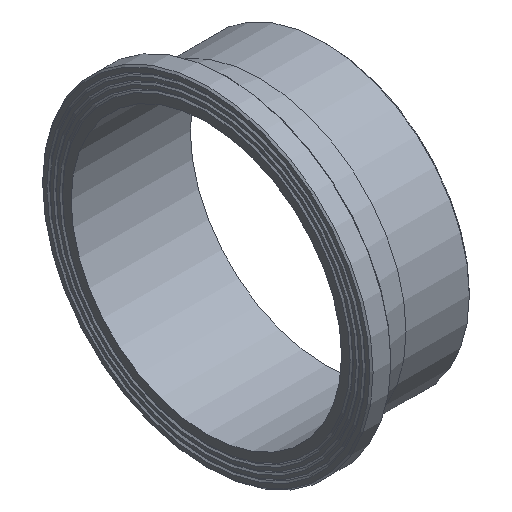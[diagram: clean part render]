
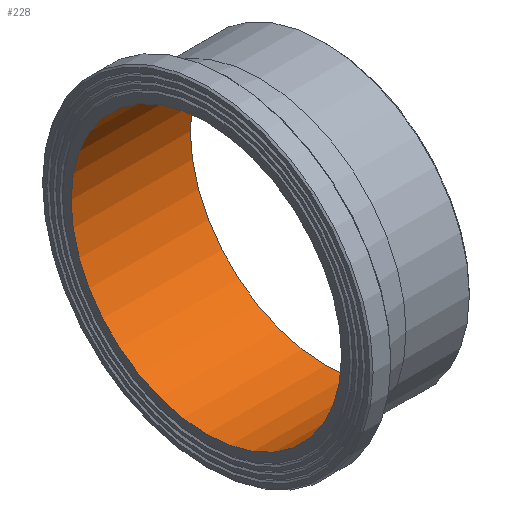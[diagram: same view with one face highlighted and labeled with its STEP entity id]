
A CAD part, isometric view. The second image highlights one B-rep face of the part: STEP entity #228.
In plain terms, the highlighted cylindrical face has radius 129.3 mm (diameter 258.6 mm), a full revolution.
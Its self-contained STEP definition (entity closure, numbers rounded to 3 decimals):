
#33=CYLINDRICAL_SURFACE('',#274,129.3);
#50=ORIENTED_EDGE('',*,*,#79,.F.);
#51=ORIENTED_EDGE('',*,*,#76,.T.);
#76=EDGE_CURVE('',#96,#96,#116,.T.);
#79=EDGE_CURVE('',#99,#99,#119,.T.);
#96=VERTEX_POINT('',#383);
#99=VERTEX_POINT('',#390);
#116=CIRCLE('',#257,129.3);
#119=CIRCLE('',#261,129.3);
#150=EDGE_LOOP('',(#50));
#151=EDGE_LOOP('',(#51));
#190=FACE_BOUND('',#150,.T.);
#191=FACE_BOUND('',#151,.T.);
#228=ADVANCED_FACE('',(#190,#191),#33,.F.);
#257=AXIS2_PLACEMENT_3D('',#382,#303,#304);
#261=AXIS2_PLACEMENT_3D('',#389,#311,#312);
#274=AXIS2_PLACEMENT_3D('',#410,#337,#338);
#303=DIRECTION('',(-1.,0.,0.));
#304=DIRECTION('',(0.,0.,1.));
#311=DIRECTION('',(-1.,0.,0.));
#312=DIRECTION('',(0.,0.,1.));
#337=DIRECTION('',(-1.,0.,0.));
#338=DIRECTION('',(0.,0.,1.));
#382=CARTESIAN_POINT('',(0.,0.,0.));
#383=CARTESIAN_POINT('',(0.,0.,129.3));
#389=CARTESIAN_POINT('',(114.,0.,0.));
#390=CARTESIAN_POINT('',(114.,0.,129.3));
#410=CARTESIAN_POINT('',(60.,0.,0.));
